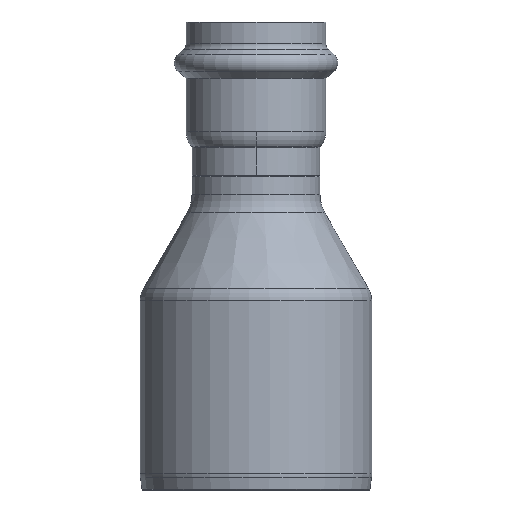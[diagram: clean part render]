
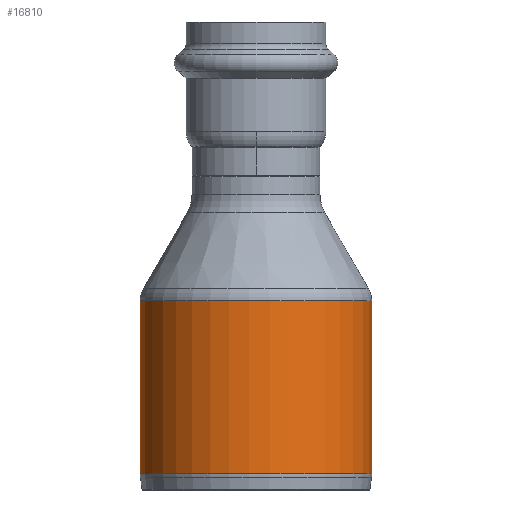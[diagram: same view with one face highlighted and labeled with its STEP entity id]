
A CAD part, front view. The second image highlights one B-rep face of the part: STEP entity #16810.
In plain terms, the highlighted cylindrical face has radius 38.05 mm (diameter 76.1 mm), a partial arc.
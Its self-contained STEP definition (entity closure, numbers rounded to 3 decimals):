
#10200=CARTESIAN_POINT('',(-50.543,2.186,
37.987));
#10210=DIRECTION('',(1.,0.,0.));
#10220=VECTOR('',#10210,1.);
#10230=LINE('',#10200,#10220);
#10240=CARTESIAN_POINT('',(-74.012,2.186,
37.987));
#10250=VERTEX_POINT('644870-1530253459-180373220723-0 1165980',#10240);
#10260=CARTESIAN_POINT('',(-17.407,2.186,
37.987));
#10270=VERTEX_POINT('',#10260);
#10280=EDGE_CURVE('',#10250,#10270,#10230,.T.);
#10300=CARTESIAN_POINT('',(-74.012,0.,0.));
#10310=DIRECTION('',(1.,0.,0.));
#10320=DIRECTION('',(0.,0.057,0.998));
#10330=AXIS2_PLACEMENT_3D('',#10300,#10310,#10320);
#10340=CIRCLE('',#10330,38.05);
#10350=CARTESIAN_POINT('',(-74.012,-2.186,
-37.987));
#10360=VERTEX_POINT('',#10350);
#10390=CARTESIAN_POINT('',(-50.543,-2.186,
-37.987));
#10400=DIRECTION('',(1.,0.,0.));
#10410=VECTOR('',#10400,1.);
#10420=LINE('',#10390,#10410);
#10430=CARTESIAN_POINT('',(-17.407,-2.186,
-37.987));
#10440=VERTEX_POINT('644870-1530253459-180373220723-0 1165905',#10430);
#10450=EDGE_CURVE('',#10360,#10440,#10420,.T.);
#10470=CARTESIAN_POINT('',(-17.407,0.,0.));
#10480=DIRECTION('',(-1.,0.,0.));
#10490=DIRECTION('',(0.,-0.057,-0.998));
#10500=AXIS2_PLACEMENT_3D('',#10470,#10480,#10490);
#10510=CIRCLE('',#10500,38.05);
#16680=CARTESIAN_POINT('',(-50.543,0.,0.));
#16690=DIRECTION('',(1.,0.,0.));
#16700=DIRECTION('',(0.,0.057,0.998));
#16710=AXIS2_PLACEMENT_3D('',#16680,#16690,#16700);
#16720=CYLINDRICAL_SURFACE('',#16710,38.05);
#16730=EDGE_CURVE('644870-1530253459-180373220723-0 1165903',#10440,
#10270,#10510,.T.);
#16740=ORIENTED_EDGE('',*,*,#16730,.T.);
#16750=ORIENTED_EDGE('',*,*,#10450,.T.);
#16760=EDGE_CURVE('644870-1530253459-180373220723-0 1165973',#10250,
#10360,#10340,.T.);
#16770=ORIENTED_EDGE('',*,*,#16760,.T.);
#16780=ORIENTED_EDGE('',*,*,#10280,.F.);
#16790=EDGE_LOOP('',(#16780,#16770,#16750,#16740));
#16800=FACE_OUTER_BOUND('',#16790,.T.);
#16810=ADVANCED_FACE('644870-1530253459-180373220723-0 1165912',(#16800)
,#16720,.T.);
